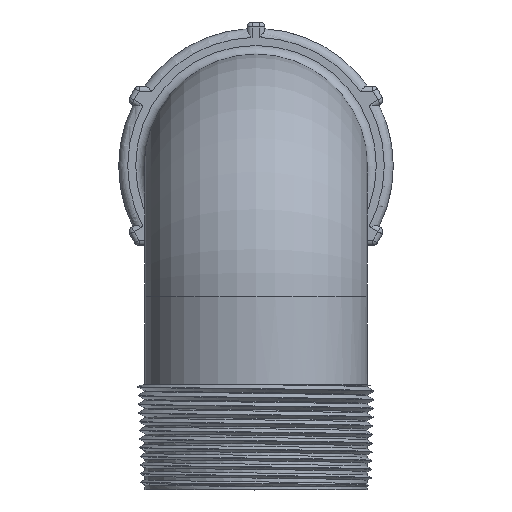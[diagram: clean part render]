
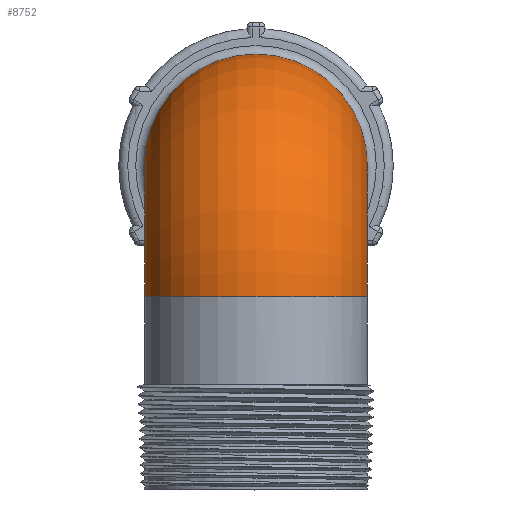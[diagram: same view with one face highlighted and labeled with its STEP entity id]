
A CAD part, top view. The second image highlights one B-rep face of the part: STEP entity #8752.
In plain terms, the highlighted toroidal (fillet/blend) face has major radius 33.528 mm and minor radius 28.321 mm.
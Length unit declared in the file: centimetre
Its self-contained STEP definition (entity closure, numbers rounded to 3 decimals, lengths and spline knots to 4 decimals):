
#108=TOROIDAL_SURFACE('',#9029,3.3528,2.8321);
#2495=VERTEX_POINT('',#348846);
#2556=VERTEX_POINT('',#364974);
#2669=CIRCLE('',#8970,2.8321);
#2715=CIRCLE('',#9021,2.8321);
#4129=EDGE_CURVE('',#2495,#2495,#2669,.T.);
#4203=EDGE_CURVE('',#2556,#2556,#2715,.T.);
#7181=ORIENTED_EDGE('',*,*,#4203,.T.);
#7182=ORIENTED_EDGE('',*,*,#4129,.T.);
#7709=EDGE_LOOP('',(#7181));
#7710=EDGE_LOOP('',(#7182));
#8237=FACE_BOUND('',#7709,.T.);
#8238=FACE_BOUND('',#7710,.T.);
#8752=ADVANCED_FACE('',(#8237,#8238),#108,.T.);
#8970=AXIS2_PLACEMENT_3D('',#348845,#9681,#9682);
#9021=AXIS2_PLACEMENT_3D('',#364973,#9785,#9786);
#9029=AXIS2_PLACEMENT_3D('',#364985,#9799,$);
#9681=DIRECTION('',(0.,0.,1.));
#9682=DIRECTION('',(0.,2.832,0.));
#9785=DIRECTION('',(0.,1.,0.));
#9786=DIRECTION('',(0.,0.,2.832));
#9799=DIRECTION('',(1.,0.,0.));
#348845=CARTESIAN_POINT('',(0.,3.3528,0.));
#348846=CARTESIAN_POINT('',(0.,0.5207,0.));
#364973=CARTESIAN_POINT('',(0.,0.,3.3528));
#364974=CARTESIAN_POINT('',(0.,0.,0.5207));
#364985=CARTESIAN_POINT('',(0.,0.,0.));
